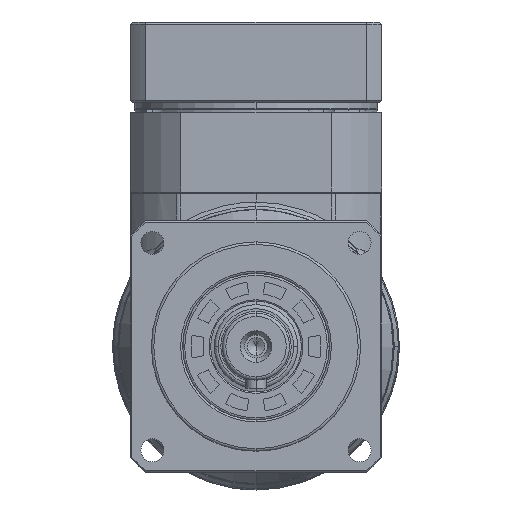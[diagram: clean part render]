
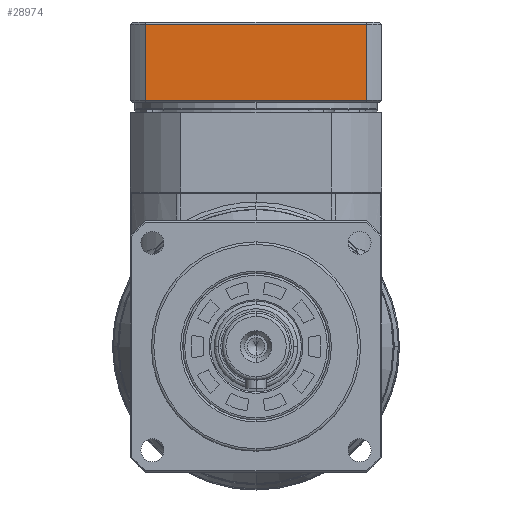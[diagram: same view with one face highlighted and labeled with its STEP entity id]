
A CAD part, left-side view. The second image highlights one B-rep face of the part: STEP entity #28974.
In plain terms, the highlighted planar face has unit normal (-1, 0, 0).
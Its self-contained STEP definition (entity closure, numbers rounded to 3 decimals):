
#263 = VERTEX_POINT ( 'NONE', #56931 ) ;
#3550 = CARTESIAN_POINT ( 'NONE',  ( -66.465, -26.92, 111.631 ) ) ;
#4664 = VECTOR ( 'NONE', #49700, 1000. ) ;
#12223 = DIRECTION ( 'NONE',  ( -1., 0., 0. ) ) ;
#13580 = CARTESIAN_POINT ( 'NONE',  ( -66.465, -0.462, 54.331 ) ) ;
#14478 = CARTESIAN_POINT ( 'NONE',  ( -66.465, -0.462, 129.831 ) ) ;
#16100 = DIRECTION ( 'NONE',  ( 0., 0., 1. ) ) ;
#16200 = VERTEX_POINT ( 'NONE', #14478 ) ;
#17932 = VECTOR ( 'NONE', #25347, 1000. ) ;
#18204 = CARTESIAN_POINT ( 'NONE',  ( -66.465, -53.377, 54.331 ) ) ;
#20467 = VERTEX_POINT ( 'NONE', #57595 ) ;
#21702 = LINE ( 'NONE', #3550, #40948 ) ;
#25347 = DIRECTION ( 'NONE',  ( 0., 1., 0. ) ) ;
#28652 = ORIENTED_EDGE ( 'NONE', *, *, #38321, .T. ) ;
#28974 = ADVANCED_FACE ( 'NONE', ( #38974 ), #34806, .T. ) ;
#31421 = LINE ( 'NONE', #13580, #37790 ) ;
#31423 = EDGE_LOOP ( 'NONE', ( #41355, #38149, #33978, #28652 ) ) ;
#31576 = LINE ( 'NONE', #18204, #4664 ) ;
#33978 = ORIENTED_EDGE ( 'NONE', *, *, #36025, .T. ) ;
#34806 = PLANE ( 'NONE',  #45484 ) ;
#36025 = EDGE_CURVE ( 'NONE', #20467, #16200, #38440, .T. ) ;
#37790 = VECTOR ( 'NONE', #53982, 1000. ) ;
#38149 = ORIENTED_EDGE ( 'NONE', *, *, #39887, .T. ) ;
#38321 = EDGE_CURVE ( 'NONE', #16200, #263, #31421, .T. ) ;
#38440 = LINE ( 'NONE', #57427, #17932 ) ;
#38974 = FACE_OUTER_BOUND ( 'NONE', #31423, .T. ) ;
#39887 = EDGE_CURVE ( 'NONE', #51635, #20467, #31576, .T. ) ;
#40948 = VECTOR ( 'NONE', #54049, 1000. ) ;
#41355 = ORIENTED_EDGE ( 'NONE', *, *, #43091, .T. ) ;
#43091 = EDGE_CURVE ( 'NONE', #263, #51635, #21702, .T. ) ;
#45484 = AXIS2_PLACEMENT_3D ( 'NONE', #52909, #12223, #16100 ) ;
#49700 = DIRECTION ( 'NONE',  ( 0., 0., 1. ) ) ;
#51635 = VERTEX_POINT ( 'NONE', #55302 ) ;
#52909 = CARTESIAN_POINT ( 'NONE',  ( -66.465, -0.462, 54.331 ) ) ;
#53982 = DIRECTION ( 'NONE',  ( 0., 0., -1. ) ) ;
#54049 = DIRECTION ( 'NONE',  ( 0., -1., 0. ) ) ;
#55302 = CARTESIAN_POINT ( 'NONE',  ( -66.465, -53.377, 111.631 ) ) ;
#56931 = CARTESIAN_POINT ( 'NONE',  ( -66.465, -0.462, 111.631 ) ) ;
#57427 = CARTESIAN_POINT ( 'NONE',  ( -66.465, -0.462, 129.831 ) ) ;
#57595 = CARTESIAN_POINT ( 'NONE',  ( -66.465, -53.377, 129.831 ) ) ;
